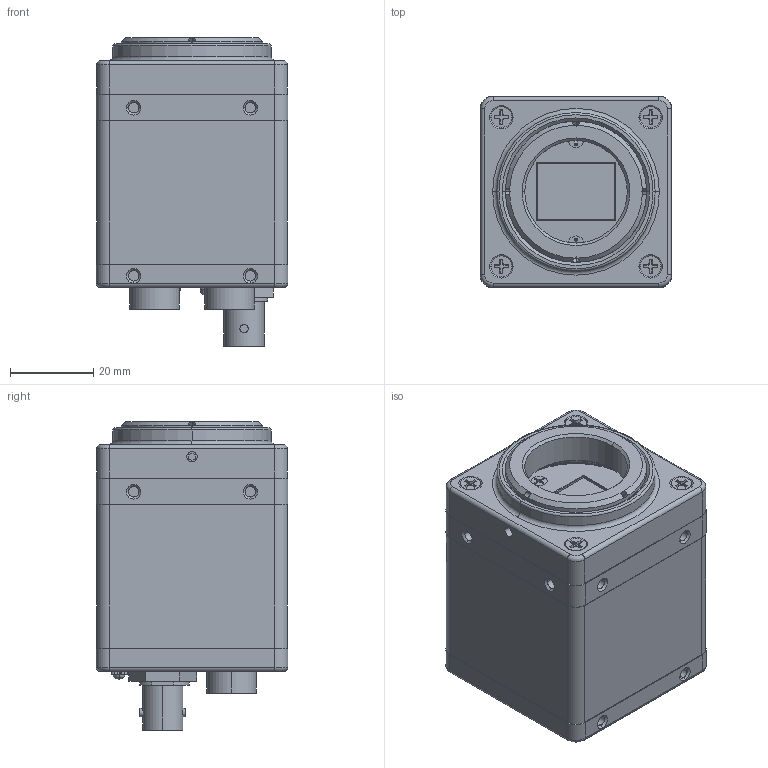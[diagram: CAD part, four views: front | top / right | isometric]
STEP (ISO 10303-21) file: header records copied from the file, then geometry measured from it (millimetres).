
FILE_DESCRIPTION (( 'STEP AP203' ), '1' );
FILE_NAME ('CXP-B1610x-SC000 (2MP ICX-274) Dummy.STEP', '2013-03-15T18:21:01', ( 'AR' ), ( 'Microsoft' ), 'SwSTEP 2.0', 'SolidWorks 2002308', '' );
FILE_SCHEMA (( 'CONFIG_CONTROL_DESIGN' ));
Length unit declared in the file: millimetre
Products named in the file (23): CXP-B1610x-SC000 (2MP ICX-274) Dummy; Hirose_HR10A-Female_Exploded; Heat Sink Sony-SJ; 2MP Sony Gasket; Front Housing-Mill; 22x17 IR Filter; Gasket Front Glass; Front Plate 2MP-HD; M3.0x0.5 Set Screw_M2x0.4x5; SJ-Focal Adjuster_Thread; M2.5 CounterSunk Screw_12mm Length; ICX274AQ 2MP-Sony; Molex USB 500075; C-6274124-02-3; M1.5 Guidance Pin - 91585A014; LED Rear Housing; Mid Housing-ACTUAL_CXP; Hirose-Exploded; Hirose Washer; Hirose Nut; Hirose_HR10A_Exploded; Rear Housing SJ-CXP_Lynx; M2.0x0.4x4 Flat_92010A001
Assembly tree (36 placements, depth 3):
  CXP-B1610x-SC000 (2MP ICX-274) Dummy
    M2.5 CounterSunk Screw_12mm Length  x8
    ICX274AQ 2MP-Sony
    Gasket Front Glass
    Heat Sink Sony-SJ
    LED Rear Housing
    M2.0x0.4x4 Flat_92010A001  x5
    Hirose_HR10A-Female_Exploded
    M1.5 Guidance Pin - 91585A014  x2
    Front Plate 2MP-HD
    2MP Sony Gasket
    Molex USB 500075
    Hirose-Exploded  x2
      Hirose Washer
      Hirose Nut
      Hirose_HR10A_Exploded
    Front Housing-Mill
    C-6274124-02-3
    Mid Housing-ACTUAL_CXP
    Rear Housing SJ-CXP_Lynx
    SJ-Focal Adjuster_Thread
    22x17 IR Filter
    M3.0x0.5 Set Screw_M2x0.4x5  x2
Bounding box: 46 x 46 x 74.05 mm (x, y, z)
Volume: 44428.6 mm3; surface area: 51058.4 mm2
Topology: 37 solids, 38 shells, 2586 faces, 6597 edges, 4160 vertices
Faces by surface type: plane 1304, cylinder 858, cone 336, sphere 48, bspline 28, torus 12
Entity records: 61611 total; most frequent: CARTESIAN_POINT 12148, ORIENTED_EDGE 9724, DIRECTION 9695, EDGE_CURVE 4862, LINE 3277, VECTOR 3277, AXIS2_PLACEMENT_3D 3209, VERTEX_POINT 3102
